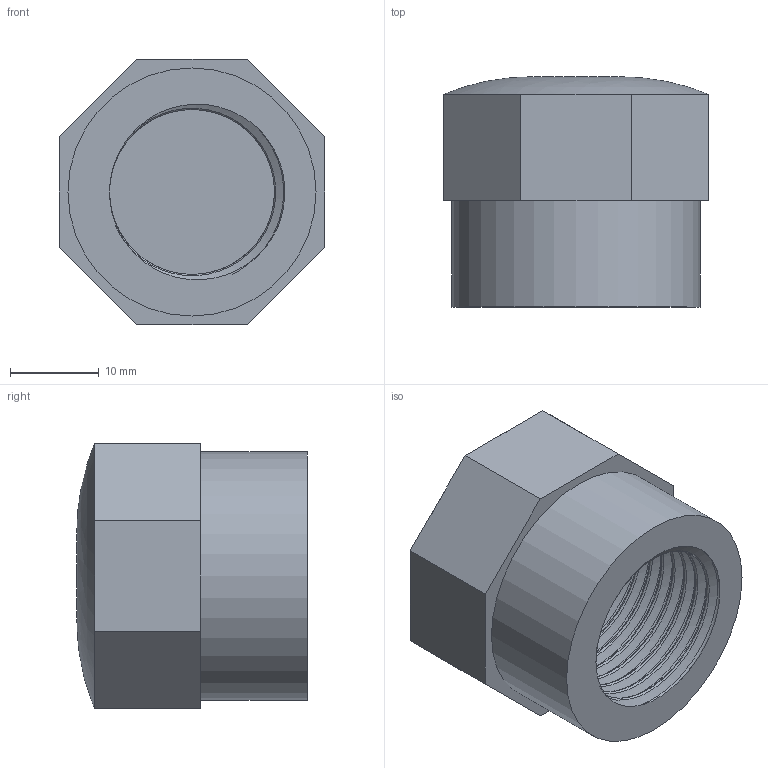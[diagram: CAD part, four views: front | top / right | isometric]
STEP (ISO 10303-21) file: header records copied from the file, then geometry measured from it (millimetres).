
FILE_DESCRIPTION(/* description */ ('PVC calotta filettata BSP'),/* implementation_level */ '2;1');
FILE_NAME(/* name */ 'C:\Users\POLYPIPE\Desktop\DATASET INVENTOR\LIBRERIA EFFAST\RACCORDI 3DxWEB\RER\3D_RERCAE\3D_RERCAE020B.stp',/* time_stamp */ '2018-01-19T15:56:57+01:00',/* author */ ('POLYPIPE'),/* organization */ ('Polypipe Italia s.r.l.'),/* preprocessor_version */ 'ST-DEVELOPER v16.1',/* originating_system */ 'Autodesk Inventor 2016',/* authorisation */ '');
FILE_SCHEMA (('CONFIG_CONTROL_DESIGN'));
Length unit declared in the file: millimetre
Products named in the file (1): 3D_RERCAE
Bounding box: 30 x 26 x 30 mm (x, y, z)
Volume: 12097 mm3; surface area: 5396 mm2
Topology: 1 solids, 1 shells, 30 faces, 68 edges, 42 vertices
Faces by surface type: plane 21, bspline 6, cylinder 3
Full cylindrical faces by diameter (mm): 10 x1, 18.631 x1, 28 x1
Entity records: 3839 total; most frequent: CARTESIAN_POINT 3190, ORIENTED_EDGE 128, DIRECTION 119, EDGE_CURVE 64, AXIS2_PLACEMENT_3D 42, VERTEX_POINT 41, LINE 35, VECTOR 35
